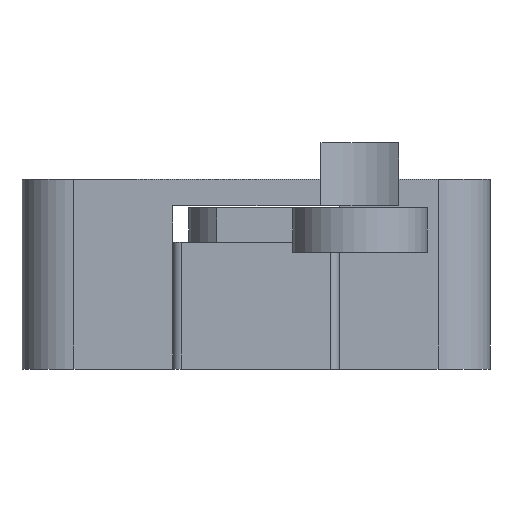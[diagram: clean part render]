
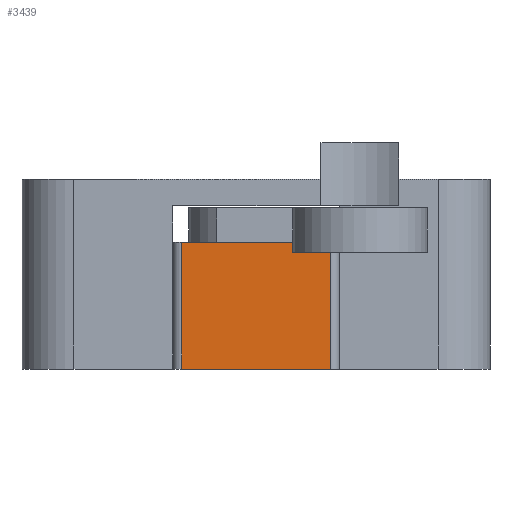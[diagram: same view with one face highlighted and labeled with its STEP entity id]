
A CAD part, left-side view. The second image highlights one B-rep face of the part: STEP entity #3439.
In plain terms, the highlighted planar face has unit normal (-1, 0, 0).
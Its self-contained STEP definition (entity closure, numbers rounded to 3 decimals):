
#72 = PLANE('',#73);
#73 = AXIS2_PLACEMENT_3D('',#74,#75,#76);
#74 = CARTESIAN_POINT('',(-9.,-47.,1.5));
#75 = DIRECTION('',(0.,0.,1.));
#76 = DIRECTION('',(1.,0.,-0.));
#852 = VERTEX_POINT('',#853);
#853 = CARTESIAN_POINT('',(-13.6,-35.15,1.5));
#872 = CYLINDRICAL_SURFACE('',#873,0.35);
#873 = AXIS2_PLACEMENT_3D('',#874,#875,#876);
#874 = CARTESIAN_POINT('',(-13.25,-35.15,1.5));
#875 = DIRECTION('',(-0.,-0.,1.));
#876 = DIRECTION('',(-1.,-0.,-0.));
#884 = EDGE_CURVE('',#885,#852,#887,.T.);
#885 = VERTEX_POINT('',#886);
#886 = CARTESIAN_POINT('',(-13.6,-40.85,1.5));
#887 = SURFACE_CURVE('',#888,(#892,#899),.PCURVE_S1.);
#888 = LINE('',#889,#890);
#889 = CARTESIAN_POINT('',(-13.6,-41.2,1.5));
#890 = VECTOR('',#891,1.);
#891 = DIRECTION('',(0.,1.,0.));
#892 = PCURVE('',#72,#893);
#893 = DEFINITIONAL_REPRESENTATION('',(#894),#898);
#894 = LINE('',#895,#896);
#895 = CARTESIAN_POINT('',(-4.6,5.8));
#896 = VECTOR('',#897,1.);
#897 = DIRECTION('',(0.,1.));
#898 = ( GEOMETRIC_REPRESENTATION_CONTEXT(2) 
PARAMETRIC_REPRESENTATION_CONTEXT() REPRESENTATION_CONTEXT('2D SPACE',''
  ) );
#899 = PCURVE('',#900,#905);
#900 = PLANE('',#901);
#901 = AXIS2_PLACEMENT_3D('',#902,#903,#904);
#902 = CARTESIAN_POINT('',(-13.6,-41.2,1.5));
#903 = DIRECTION('',(-1.,-0.,-0.));
#904 = DIRECTION('',(-0.,-0.,-1.));
#905 = DEFINITIONAL_REPRESENTATION('',(#906),#910);
#906 = LINE('',#907,#908);
#907 = CARTESIAN_POINT('',(-0.,-0.));
#908 = VECTOR('',#909,1.);
#909 = DIRECTION('',(-0.,-1.));
#910 = ( GEOMETRIC_REPRESENTATION_CONTEXT(2) 
PARAMETRIC_REPRESENTATION_CONTEXT() REPRESENTATION_CONTEXT('2D SPACE',''
  ) );
#929 = CYLINDRICAL_SURFACE('',#930,0.35);
#930 = AXIS2_PLACEMENT_3D('',#931,#932,#933);
#931 = CARTESIAN_POINT('',(-13.25,-40.85,1.5));
#932 = DIRECTION('',(-0.,-0.,1.));
#933 = DIRECTION('',(-1.,-0.,-0.));
#1493 = PLANE('',#1494);
#1494 = AXIS2_PLACEMENT_3D('',#1495,#1496,#1497);
#1495 = CARTESIAN_POINT('',(-24.,-43.5,6.));
#1496 = DIRECTION('',(0.,0.,1.));
#1497 = DIRECTION('',(1.,0.,-0.));
#1772 = PLANE('',#1773);
#1773 = AXIS2_PLACEMENT_3D('',#1774,#1775,#1776);
#1774 = CARTESIAN_POINT('',(-6.35,-41.2,6.38));
#1775 = DIRECTION('',(0.,0.,1.));
#1776 = DIRECTION('',(1.,0.,0.));
#3392 = VERTEX_POINT('',#3393);
#3393 = CARTESIAN_POINT('',(-13.6,-35.15,6.38));
#3419 = EDGE_CURVE('',#852,#3392,#3420,.T.);
#3420 = SURFACE_CURVE('',#3421,(#3425,#3432),.PCURVE_S1.);
#3421 = LINE('',#3422,#3423);
#3422 = CARTESIAN_POINT('',(-13.6,-35.15,1.5));
#3423 = VECTOR('',#3424,1.);
#3424 = DIRECTION('',(-0.,-0.,1.));
#3425 = PCURVE('',#872,#3426);
#3426 = DEFINITIONAL_REPRESENTATION('',(#3427),#3431);
#3427 = LINE('',#3428,#3429);
#3428 = CARTESIAN_POINT('',(-0.,0.));
#3429 = VECTOR('',#3430,1.);
#3430 = DIRECTION('',(-0.,1.));
#3431 = ( GEOMETRIC_REPRESENTATION_CONTEXT(2) 
PARAMETRIC_REPRESENTATION_CONTEXT() REPRESENTATION_CONTEXT('2D SPACE',''
  ) );
#3432 = PCURVE('',#900,#3433);
#3433 = DEFINITIONAL_REPRESENTATION('',(#3434),#3438);
#3434 = LINE('',#3435,#3436);
#3435 = CARTESIAN_POINT('',(-0.,-6.05));
#3436 = VECTOR('',#3437,1.);
#3437 = DIRECTION('',(-1.,-0.));
#3438 = ( GEOMETRIC_REPRESENTATION_CONTEXT(2) 
PARAMETRIC_REPRESENTATION_CONTEXT() REPRESENTATION_CONTEXT('2D SPACE',''
  ) );
#3439 = ADVANCED_FACE('',(#3440),#900,.T.);
#3440 = FACE_BOUND('',#3441,.F.);
#3441 = EDGE_LOOP('',(#3442,#3465,#3493,#3516,#3537,#3538));
#3442 = ORIENTED_EDGE('',*,*,#3443,.F.);
#3443 = EDGE_CURVE('',#3444,#3392,#3446,.T.);
#3444 = VERTEX_POINT('',#3445);
#3445 = CARTESIAN_POINT('',(-13.6,-40.5,6.38));
#3446 = SURFACE_CURVE('',#3447,(#3451,#3458),.PCURVE_S1.);
#3447 = LINE('',#3448,#3449);
#3448 = CARTESIAN_POINT('',(-13.6,-41.2,6.38));
#3449 = VECTOR('',#3450,1.);
#3450 = DIRECTION('',(0.,1.,0.));
#3451 = PCURVE('',#900,#3452);
#3452 = DEFINITIONAL_REPRESENTATION('',(#3453),#3457);
#3453 = LINE('',#3454,#3455);
#3454 = CARTESIAN_POINT('',(-4.88,-0.));
#3455 = VECTOR('',#3456,1.);
#3456 = DIRECTION('',(-0.,-1.));
#3457 = ( GEOMETRIC_REPRESENTATION_CONTEXT(2) 
PARAMETRIC_REPRESENTATION_CONTEXT() REPRESENTATION_CONTEXT('2D SPACE',''
  ) );
#3458 = PCURVE('',#1772,#3459);
#3459 = DEFINITIONAL_REPRESENTATION('',(#3460),#3464);
#3460 = LINE('',#3461,#3462);
#3461 = CARTESIAN_POINT('',(-7.25,0.));
#3462 = VECTOR('',#3463,1.);
#3463 = DIRECTION('',(0.,1.));
#3464 = ( GEOMETRIC_REPRESENTATION_CONTEXT(2) 
PARAMETRIC_REPRESENTATION_CONTEXT() REPRESENTATION_CONTEXT('2D SPACE',''
  ) );
#3465 = ORIENTED_EDGE('',*,*,#3466,.T.);
#3466 = EDGE_CURVE('',#3444,#3467,#3469,.T.);
#3467 = VERTEX_POINT('',#3468);
#3468 = CARTESIAN_POINT('',(-13.6,-40.5,6.));
#3469 = SURFACE_CURVE('',#3470,(#3474,#3481),.PCURVE_S1.);
#3470 = LINE('',#3471,#3472);
#3471 = CARTESIAN_POINT('',(-13.6,-40.5,3.75));
#3472 = VECTOR('',#3473,1.);
#3473 = DIRECTION('',(0.,0.,-1.));
#3474 = PCURVE('',#900,#3475);
#3475 = DEFINITIONAL_REPRESENTATION('',(#3476),#3480);
#3476 = LINE('',#3477,#3478);
#3477 = CARTESIAN_POINT('',(-2.25,-0.7));
#3478 = VECTOR('',#3479,1.);
#3479 = DIRECTION('',(1.,-0.));
#3480 = ( GEOMETRIC_REPRESENTATION_CONTEXT(2) 
PARAMETRIC_REPRESENTATION_CONTEXT() REPRESENTATION_CONTEXT('2D SPACE',''
  ) );
#3481 = PCURVE('',#3482,#3487);
#3482 = PLANE('',#3483);
#3483 = AXIS2_PLACEMENT_3D('',#3484,#3485,#3486);
#3484 = CARTESIAN_POINT('',(-24.,-40.5,6.));
#3485 = DIRECTION('',(0.,1.,0.));
#3486 = DIRECTION('',(0.,-0.,1.));
#3487 = DEFINITIONAL_REPRESENTATION('',(#3488),#3492);
#3488 = LINE('',#3489,#3490);
#3489 = CARTESIAN_POINT('',(-2.25,10.4));
#3490 = VECTOR('',#3491,1.);
#3491 = DIRECTION('',(-1.,0.));
#3492 = ( GEOMETRIC_REPRESENTATION_CONTEXT(2) 
PARAMETRIC_REPRESENTATION_CONTEXT() REPRESENTATION_CONTEXT('2D SPACE',''
  ) );
#3493 = ORIENTED_EDGE('',*,*,#3494,.F.);
#3494 = EDGE_CURVE('',#3495,#3467,#3497,.T.);
#3495 = VERTEX_POINT('',#3496);
#3496 = CARTESIAN_POINT('',(-13.6,-40.85,6.));
#3497 = SURFACE_CURVE('',#3498,(#3502,#3509),.PCURVE_S1.);
#3498 = LINE('',#3499,#3500);
#3499 = CARTESIAN_POINT('',(-13.6,-42.35,6.));
#3500 = VECTOR('',#3501,1.);
#3501 = DIRECTION('',(0.,1.,0.));
#3502 = PCURVE('',#900,#3503);
#3503 = DEFINITIONAL_REPRESENTATION('',(#3504),#3508);
#3504 = LINE('',#3505,#3506);
#3505 = CARTESIAN_POINT('',(-4.5,1.15));
#3506 = VECTOR('',#3507,1.);
#3507 = DIRECTION('',(-0.,-1.));
#3508 = ( GEOMETRIC_REPRESENTATION_CONTEXT(2) 
PARAMETRIC_REPRESENTATION_CONTEXT() REPRESENTATION_CONTEXT('2D SPACE',''
  ) );
#3509 = PCURVE('',#1493,#3510);
#3510 = DEFINITIONAL_REPRESENTATION('',(#3511),#3515);
#3511 = LINE('',#3512,#3513);
#3512 = CARTESIAN_POINT('',(10.4,1.15));
#3513 = VECTOR('',#3514,1.);
#3514 = DIRECTION('',(0.,1.));
#3515 = ( GEOMETRIC_REPRESENTATION_CONTEXT(2) 
PARAMETRIC_REPRESENTATION_CONTEXT() REPRESENTATION_CONTEXT('2D SPACE',''
  ) );
#3516 = ORIENTED_EDGE('',*,*,#3517,.F.);
#3517 = EDGE_CURVE('',#885,#3495,#3518,.T.);
#3518 = SURFACE_CURVE('',#3519,(#3523,#3530),.PCURVE_S1.);
#3519 = LINE('',#3520,#3521);
#3520 = CARTESIAN_POINT('',(-13.6,-40.85,1.5));
#3521 = VECTOR('',#3522,1.);
#3522 = DIRECTION('',(-0.,-0.,1.));
#3523 = PCURVE('',#900,#3524);
#3524 = DEFINITIONAL_REPRESENTATION('',(#3525),#3529);
#3525 = LINE('',#3526,#3527);
#3526 = CARTESIAN_POINT('',(-0.,-0.35));
#3527 = VECTOR('',#3528,1.);
#3528 = DIRECTION('',(-1.,-0.));
#3529 = ( GEOMETRIC_REPRESENTATION_CONTEXT(2) 
PARAMETRIC_REPRESENTATION_CONTEXT() REPRESENTATION_CONTEXT('2D SPACE',''
  ) );
#3530 = PCURVE('',#929,#3531);
#3531 = DEFINITIONAL_REPRESENTATION('',(#3532),#3536);
#3532 = LINE('',#3533,#3534);
#3533 = CARTESIAN_POINT('',(0.,0.));
#3534 = VECTOR('',#3535,1.);
#3535 = DIRECTION('',(0.,1.));
#3536 = ( GEOMETRIC_REPRESENTATION_CONTEXT(2) 
PARAMETRIC_REPRESENTATION_CONTEXT() REPRESENTATION_CONTEXT('2D SPACE',''
  ) );
#3537 = ORIENTED_EDGE('',*,*,#884,.T.);
#3538 = ORIENTED_EDGE('',*,*,#3419,.T.);
